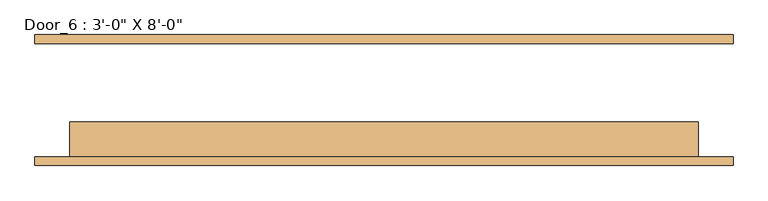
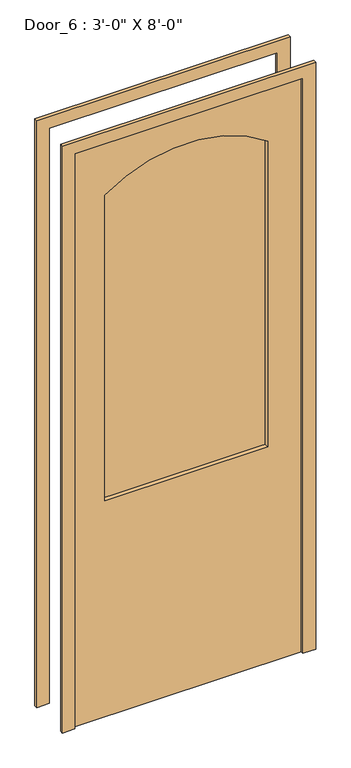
"""IFC4 building model written with IfcOpenShell, lengths in millimetres: door geometry."""

from ifc_helpers import new_model, si_unit, point, frame, frame_2d, origin, place, context, project, spatial, polyline, circle_curve, trimmed, segment, composite_curve, outline, extrude, source, transform, mapped, element, save


def door_68885316(model_context):
    return source(origin(), model_context, "Body", "SweptSolid", [
        extrude(outline(composite_curve([segment(trimmed(circle_curve(frame_2d((1759.6941406, -3.175)), 556.3637616), [point((2209.8, 323.85))], [point((2209.8, -330.2))], False, "CARTESIAN"), True, "CONTINUOUS"), segment(polyline([(2209.8, -330.2), (914.4, -330.2), (914.4, 323.85), (2209.8, 323.85)]), True, "CONTINUOUS")], self_intersect=False)), frame((0.0, -60.325, 0.0), z_axis=(0.0, 1.0, 0.0), x_axis=(0.0, 0.0, 1.0)), (0.0, 0.0, 1.0), 12.7),
        extrude(outline(polyline([(0.0, 457.2), (0.0, 508.0), (2489.2, 508.0), (2489.2, -508.0), (0.0, -508.0), (0.0, -457.2), (2438.4, -457.2), (2438.4, 457.2), (0.0, 457.2)])), frame((0.0, 85.725, 0.0), z_axis=(0.0, 1.0, 0.0), x_axis=(0.0, 0.0, 1.0)), (0.0, 0.0, 1.0), 12.7),
        extrude(outline(polyline([(0.0, 457.2), (0.0, 508.0), (2489.2, 508.0), (2489.2, -508.0), (0.0, -508.0), (0.0, -457.2), (2438.4, -457.2), (2438.4, 457.2), (0.0, 457.2)])), frame((0.0, -92.075, 0.0), z_axis=(0.0, 1.0, 0.0), x_axis=(0.0, 0.0, 1.0)), (0.0, 0.0, 1.0), 12.7),
        extrude(outline(polyline([(2438.4, -457.2), (0.0, -457.2), (0.0, 457.2), (2438.4, 457.2), (2438.4, -457.2)]), holes=[composite_curve([segment(polyline([(914.4, -330.2), (2209.8, -330.2)]), True, "CONTINUOUS"), segment(trimmed(circle_curve(frame_2d((1759.6941406, -3.175)), 556.3637616), [point((2209.8, -330.2))], [point((2209.8, 323.85))], True, "CARTESIAN"), True, "CONTINUOUS"), segment(polyline([(2209.8, 323.85), (914.4, 323.85), (914.4, -330.2)]), True, "CONTINUOUS")], self_intersect=False)]), frame((0.0, -79.375, 0.0), z_axis=(0.0, 1.0, 0.0), x_axis=(0.0, 0.0, 1.0)), (0.0, 0.0, 1.0), 50.8),
    ])


if __name__ == "__main__":
    model = new_model("IFC4")
    model_context = context("Model", 3, world=origin())
    ifc_project = project(units=[si_unit("LENGTHUNIT", "METRE", prefix="MILLI")], contexts=[model_context])
    site = spatial("IfcSite", under=ifc_project)
    building = spatial("IfcBuilding", under=site)
    placement = place(None, origin())
    door_shape = door_68885316(model_context)
    element("IfcDoor", 1, ObjectType="Door_6 : 3'-0\" X 8'-0\"", at=placement, inside=building, context=model_context, shape_type="MappedRepresentation", body=[
        mapped(door_shape, transform((0.0, 0.0, 0.0), x_axis=(1.0, 0.0, 0.0), y_axis=(0.0, 1.0, 0.0), z_axis=(0.0, 0.0, 1.0))),
    ])
    save(model, "model.ifc")
